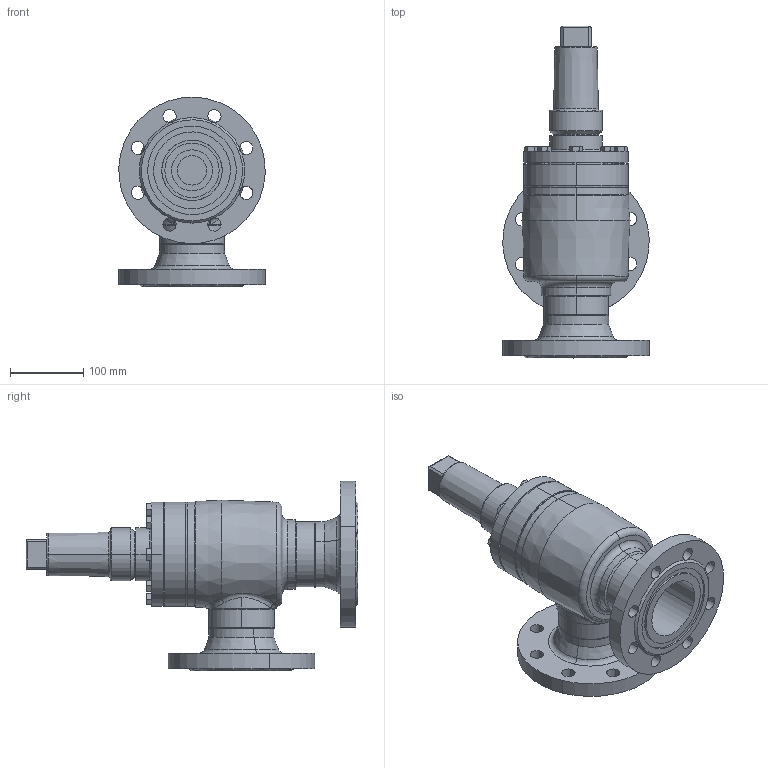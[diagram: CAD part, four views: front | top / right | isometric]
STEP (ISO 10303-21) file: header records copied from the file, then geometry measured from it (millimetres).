
FILE_DESCRIPTION (( 'STEP AP214' ), '1' );
FILE_NAME ('HRAR22420D18-DN080_DIN-FL-N_PS40.STEP', '2007-01-08T07:15:43', ( 'Herr Grams' ), ( 'AWP GmbH' ), 'SwSTEP 2.0', 'SolidWorks 2002296', '' );
FILE_SCHEMA (( 'AUTOMOTIVE_DESIGN' ));
Length unit declared in the file: millimetre
Products named in the file (12): HRAR22420D18-DN080_DIN-FL-N_PS40; Gehäuse-kpl16420-DN080_DIN_PS40_Standard; Gehäuse-kpl16400-DN080_R1_Standard; Kopfstück16300-DN080_Standard; Gehäuse16400-DN080_Standard; bead-DN080-1_Standard; Flansch-DIN-Nut_PS40_DIN-Flansch-DN080_PS40-Nut; bead-DN080-4_Standard; bead-DN080-3_Standard; Deckel26300E18-DN80_Standard; Kappe16402_DN080-100_Standard; Sechskantschraube-DIN933_M10x 25
Assembly tree (19 placements, depth 4):
  HRAR22420D18-DN080_DIN-FL-N_PS40
    Sechskantschraube-DIN933_M10x 25  x8
    Deckel26300E18-DN80_Standard
    Kappe16402_DN080-100_Standard
    Gehäuse-kpl16420-DN080_DIN_PS40_Standard
      Flansch-DIN-Nut_PS40_DIN-Flansch-DN080_PS40-Nut  x2
      bead-DN080-4_Standard
      Gehäuse-kpl16400-DN080_R1_Standard
        Gehäuse16400-DN080_Standard
        Kopfstück16300-DN080_Standard
        bead-DN080-1_Standard
      bead-DN080-3_Standard
Bounding box: 199.81 x 453 x 258.9 mm (x, y, z)
Volume: 3112985.3 mm3; surface area: 546287.1 mm2
Topology: 17 solids, 17 shells, 445 faces, 1018 edges, 623 vertices
Faces by surface type: cylinder 148, cone 141, plane 120, bspline 20, torus 16
Entity records: 19607 total; most frequent: CARTESIAN_POINT 13376, DIRECTION 1191, ORIENTED_EDGE 1080, EDGE_CURVE 540, AXIS2_PLACEMENT_3D 521, VERTEX_POINT 339, EDGE_LOOP 291, CIRCLE 285
